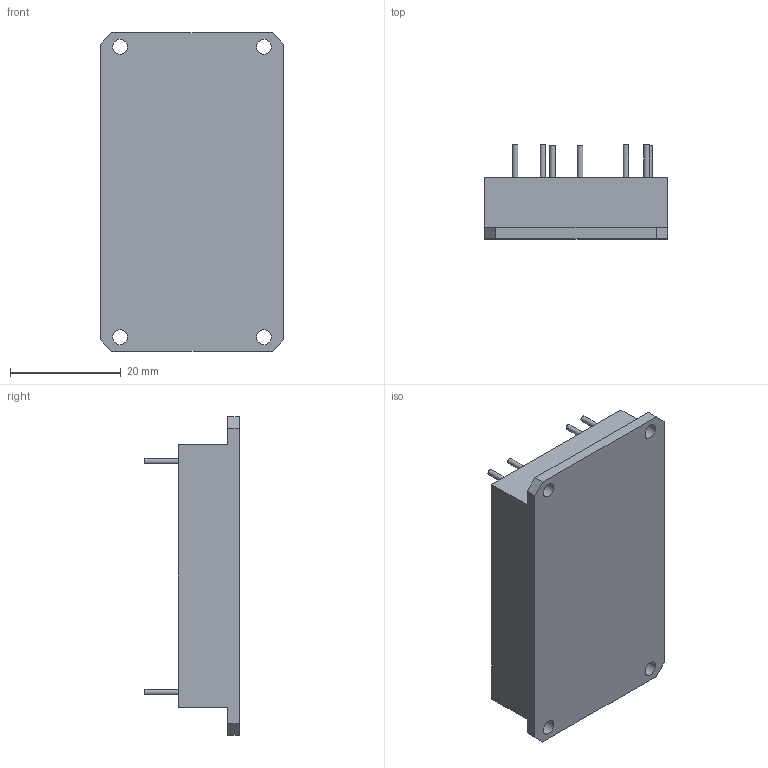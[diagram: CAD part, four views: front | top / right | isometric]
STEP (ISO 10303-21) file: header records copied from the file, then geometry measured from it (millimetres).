
FILE_DESCRIPTION(/* description */ (''),/* implementation_level */ '2;1');
FILE_NAME(/* name */ '',/* time_stamp */ '2020-02-18T13:52:13+01:00',/* author */ (''),/* organization */ (''),/* preprocessor_version */ 'ST-DEVELOPER v16.5',/* originating_system */ '',/* authorisation */ '');
FILE_SCHEMA (('AUTOMOTIVE_DESIGN { 1 0 10303 214 3 1 1 }'));
Length unit declared in the file: millimetre
Products named in the file (1): TESND40-F1_D_case_pins
Bounding box: 33 x 17 x 57.5 mm (x, y, z)
Volume: 16449 mm3; surface area: 5909.1 mm2
Topology: 1 solids, 2 shells, 43 faces, 96 edges, 64 vertices
Faces by surface type: plane 27, cylinder 15, cone 1
Full cylindrical faces by diameter (mm): 1 x7, 2.7 x4
Entity records: 1176 total; most frequent: DIRECTION 202, CARTESIAN_POINT 190, ORIENTED_EDGE 166, EDGE_CURVE 83, AXIS2_PLACEMENT_3D 75, EDGE_LOOP 70, VERTEX_POINT 63, LINE 52
